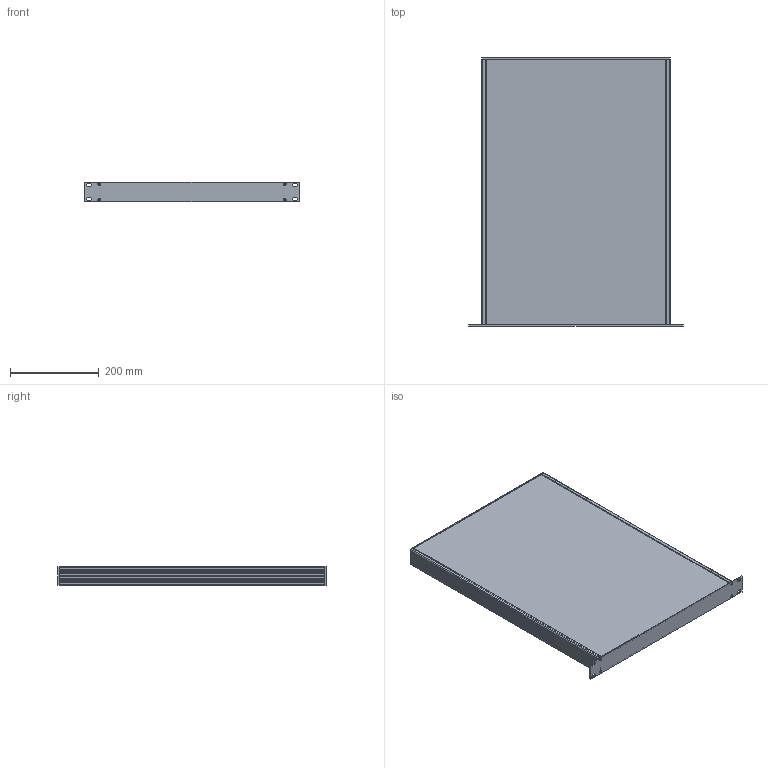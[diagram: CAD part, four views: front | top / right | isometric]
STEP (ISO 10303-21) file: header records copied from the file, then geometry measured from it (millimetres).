
FILE_DESCRIPTION(/* description */ (''),/* implementation_level */ '2;1');
FILE_NAME(/* name */ '//diskstation/Kunden/Gehäuse/Gehäuse/1HE/step/600.step',/* time_stamp */ '2022-02-17T15:20:00+01:00',/* author */ (''),/* organization */ (''),/* preprocessor_version */ 'ST-DEVELOPER v18.1',/* originating_system */ 'Autodesk Translation Framework v10.10.0.1391',/* authorisation */ '');
FILE_SCHEMA (('AUTOMOTIVE_DESIGN { 1 0 10303 214 3 1 1 }'));
Length unit declared in the file: millimetre
Products named in the file (7): 1HE Gehäuse mit Parameter (Seitenteilprofil); Frontplatte; Gehäuse; Seitenteilprofil; Rückplatte; Deckel; Bodenplatte
Assembly tree (7 placements, depth 3):
  1HE Gehäuse mit Parameter (Seitenteilprofil)
    Frontplatte
    Gehäuse
      Seitenteilprofil  x2
      Rückplatte
      Deckel
      Bodenplatte
Bounding box: 483 x 605 x 43.6 mm (x, y, z)
Volume: 1527619 mm3; surface area: 1294716.7 mm2
Topology: 6 solids, 6 shells, 252 faces, 712 edges, 472 vertices
Faces by surface type: plane 158, cylinder 86, cone 8
Full cylindrical faces by diameter (mm): 3 x4, 3.2 x8
Entity records: 5633 total; most frequent: CARTESIAN_POINT 956, DIRECTION 952, ORIENTED_EDGE 932, EDGE_CURVE 466, LINE 344, VECTOR 344, VERTEX_POINT 308, AXIS2_PLACEMENT_3D 304
